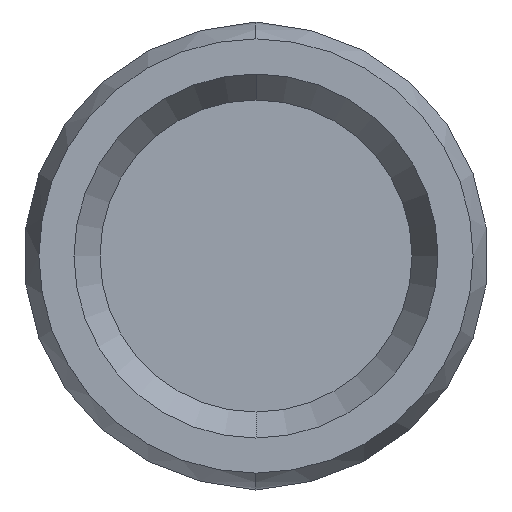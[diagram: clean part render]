
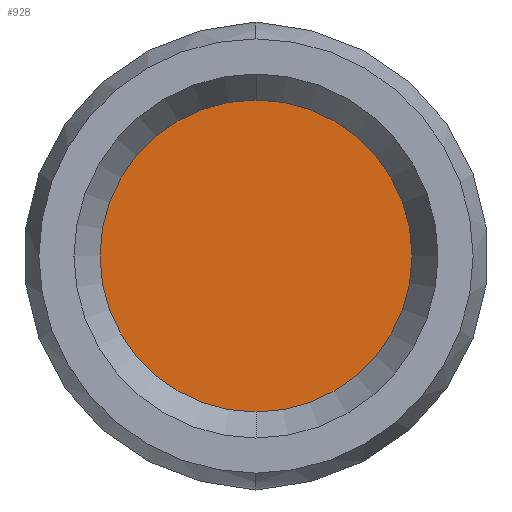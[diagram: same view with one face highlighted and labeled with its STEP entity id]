
A CAD part, left-side view. The second image highlights one B-rep face of the part: STEP entity #928.
In plain terms, the highlighted planar face has unit normal (-1, 0, 0).
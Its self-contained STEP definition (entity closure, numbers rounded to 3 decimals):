
#53 = AXIS2_PLACEMENT_3D ( 'NONE', #671, #342, #443 ) ;
#56 = DIRECTION ( 'NONE',  ( -1., 0., 0. ) ) ;
#59 = DIRECTION ( 'NONE',  ( -1., 0., 0. ) ) ;
#116 = VERTEX_POINT ( 'NONE', #1031 ) ;
#123 = CARTESIAN_POINT ( 'NONE',  ( 19.98, 0., 0. ) ) ;
#259 = CIRCLE ( 'NONE', #802, 0.6 ) ;
#325 = DIRECTION ( 'NONE',  ( 0., 0., 1. ) ) ;
#342 = DIRECTION ( 'NONE',  ( 1., 0., 0. ) ) ;
#371 = CARTESIAN_POINT ( 'NONE',  ( 19.98, 0., -0.6 ) ) ;
#373 = ORIENTED_EDGE ( 'NONE', *, *, #506, .T. ) ;
#411 = FACE_OUTER_BOUND ( 'NONE', #805, .T. ) ;
#430 = EDGE_CURVE ( 'NONE', #116, #738, #259, .T. ) ;
#443 = DIRECTION ( 'NONE',  ( 0., 0., -1. ) ) ;
#506 = EDGE_CURVE ( 'NONE', #738, #116, #709, .T. ) ;
#671 = CARTESIAN_POINT ( 'NONE',  ( 19.98, 0.6, 0. ) ) ;
#709 = CIRCLE ( 'NONE', #857, 0.6 ) ;
#738 = VERTEX_POINT ( 'NONE', #371 ) ;
#802 = AXIS2_PLACEMENT_3D ( 'NONE', #843, #59, #1111 ) ;
#805 = EDGE_LOOP ( 'NONE', ( #913, #373 ) ) ;
#843 = CARTESIAN_POINT ( 'NONE',  ( 19.98, 0., 0. ) ) ;
#857 = AXIS2_PLACEMENT_3D ( 'NONE', #123, #56, #325 ) ;
#913 = ORIENTED_EDGE ( 'NONE', *, *, #430, .T. ) ;
#928 = ADVANCED_FACE ( 'NONE', ( #411 ), #1100, .F. ) ;
#1031 = CARTESIAN_POINT ( 'NONE',  ( 19.98, 0., 0.6 ) ) ;
#1100 = PLANE ( 'NONE',  #53 ) ;
#1111 = DIRECTION ( 'NONE',  ( 0., 0., 1. ) ) ;
